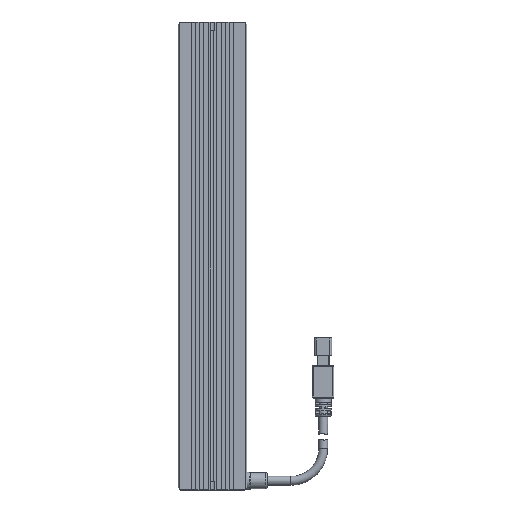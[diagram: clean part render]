
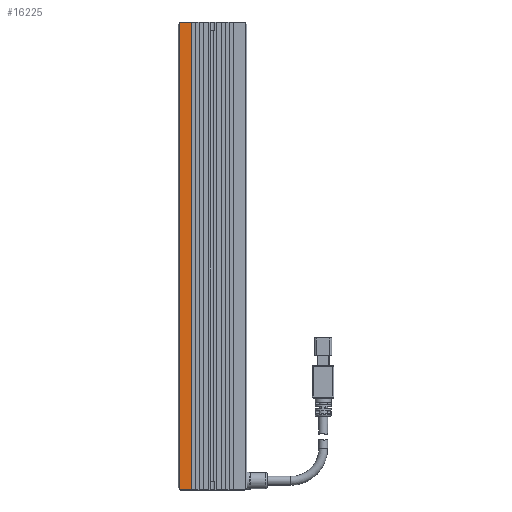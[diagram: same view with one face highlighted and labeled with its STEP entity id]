
A CAD part, top view. The second image highlights one B-rep face of the part: STEP entity #16225.
In plain terms, the highlighted planar face has unit normal (0, 0, 1).
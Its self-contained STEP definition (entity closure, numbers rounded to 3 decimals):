
#470 = DIRECTION ( 'NONE',  ( 1., 0., 0. ) ) ;
#554 = ORIENTED_EDGE ( 'NONE', *, *, #3333, .F. ) ;
#613 = EDGE_CURVE ( 'NONE', #17230, #4072, #14926, .T. ) ;
#707 = VERTEX_POINT ( 'NONE', #14623 ) ;
#1229 = CARTESIAN_POINT ( 'NONE',  ( -15.5, 109., 12.5 ) ) ;
#1586 = CARTESIAN_POINT ( 'NONE',  ( -15., 109., 12.5 ) ) ;
#2524 = CARTESIAN_POINT ( 'NONE',  ( -15., -109., 12.5 ) ) ;
#3333 = EDGE_CURVE ( 'NONE', #707, #8065, #17292, .T. ) ;
#3860 = DIRECTION ( 'NONE',  ( 0., 0., -1. ) ) ;
#4051 = VECTOR ( 'NONE', #4619, 1000. ) ;
#4062 = DIRECTION ( 'NONE',  ( 0., -1., 0. ) ) ;
#4072 = VERTEX_POINT ( 'NONE', #4198 ) ;
#4084 = VECTOR ( 'NONE', #15612, 1000. ) ;
#4104 = ORIENTED_EDGE ( 'NONE', *, *, #11470, .F. ) ;
#4198 = CARTESIAN_POINT ( 'NONE',  ( -15.5, 108.5, 12.5 ) ) ;
#4460 = AXIS2_PLACEMENT_3D ( 'NONE', #13820, #3860, #13761 ) ;
#4538 = EDGE_CURVE ( 'NONE', #17144, #14817, #6209, .T. ) ;
#4619 = DIRECTION ( 'NONE',  ( 1., 0., 0. ) ) ;
#4940 = EDGE_LOOP ( 'NONE', ( #4104, #10858, #5771, #7404, #8346, #554 ) ) ;
#5202 = CARTESIAN_POINT ( 'NONE',  ( -16., -108., 12.5 ) ) ;
#5739 = CARTESIAN_POINT ( 'NONE',  ( -9.7, 109., 12.5 ) ) ;
#5771 = ORIENTED_EDGE ( 'NONE', *, *, #10704, .T. ) ;
#5796 = DIRECTION ( 'NONE',  ( 0., -1., 0. ) ) ;
#6209 = LINE ( 'NONE', #5202, #16801 ) ;
#6732 = LINE ( 'NONE', #17165, #4051 ) ;
#6898 = PLANE ( 'NONE',  #4460 ) ;
#6980 = VECTOR ( 'NONE', #4062, 1000. ) ;
#7162 = VECTOR ( 'NONE', #470, 1000. ) ;
#7404 = ORIENTED_EDGE ( 'NONE', *, *, #4538, .T. ) ;
#8065 = VERTEX_POINT ( 'NONE', #17439 ) ;
#8346 = ORIENTED_EDGE ( 'NONE', *, *, #17057, .T. ) ;
#9013 = CARTESIAN_POINT ( 'NONE',  ( -15., 109., 12.5 ) ) ;
#10704 = EDGE_CURVE ( 'NONE', #4072, #17144, #10725, .T. ) ;
#10725 = LINE ( 'NONE', #1229, #6980 ) ;
#10858 = ORIENTED_EDGE ( 'NONE', *, *, #613, .T. ) ;
#10863 = DIRECTION ( 'NONE',  ( 0.707, -0.707, 0. ) ) ;
#11470 = EDGE_CURVE ( 'NONE', #17230, #707, #16446, .T. ) ;
#12825 = CARTESIAN_POINT ( 'NONE',  ( -15.5, -108.5, 12.5 ) ) ;
#13761 = DIRECTION ( 'NONE',  ( -1., 0., 0. ) ) ;
#13820 = CARTESIAN_POINT ( 'NONE',  ( -15.5, 109., 12.5 ) ) ;
#14162 = VECTOR ( 'NONE', #5796, 1000. ) ;
#14605 = CARTESIAN_POINT ( 'NONE',  ( -15.5, 109., 12.5 ) ) ;
#14623 = CARTESIAN_POINT ( 'NONE',  ( -9.7, 109., 12.5 ) ) ;
#14817 = VERTEX_POINT ( 'NONE', #2524 ) ;
#14926 = LINE ( 'NONE', #1586, #4084 ) ;
#15612 = DIRECTION ( 'NONE',  ( -0.707, -0.707, 0. ) ) ;
#16225 = ADVANCED_FACE ( 'NONE', ( #17813 ), #6898, .F. ) ;
#16446 = LINE ( 'NONE', #14605, #7162 ) ;
#16801 = VECTOR ( 'NONE', #10863, 1000. ) ;
#17057 = EDGE_CURVE ( 'NONE', #14817, #8065, #6732, .T. ) ;
#17144 = VERTEX_POINT ( 'NONE', #12825 ) ;
#17165 = CARTESIAN_POINT ( 'NONE',  ( -15.5, -109., 12.5 ) ) ;
#17230 = VERTEX_POINT ( 'NONE', #9013 ) ;
#17292 = LINE ( 'NONE', #5739, #14162 ) ;
#17439 = CARTESIAN_POINT ( 'NONE',  ( -9.7, -109., 12.5 ) ) ;
#17813 = FACE_OUTER_BOUND ( 'NONE', #4940, .T. ) ;
